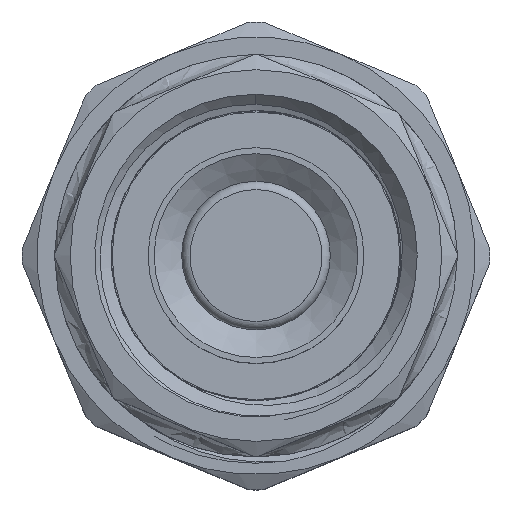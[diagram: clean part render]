
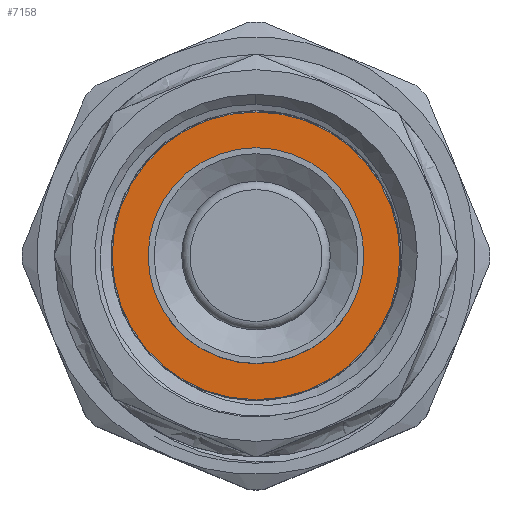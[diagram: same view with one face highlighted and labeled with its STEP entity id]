
A CAD part, top view. The second image highlights one B-rep face of the part: STEP entity #7158.
In plain terms, the highlighted planar face has unit normal (0, 0, 1).
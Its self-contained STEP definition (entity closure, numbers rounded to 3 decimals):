
#163=PLANE('',#7686);
#410=CIRCLE('',#7684,12.);
#411=CIRCLE('',#7685,12.);
#412=CIRCLE('',#7687,9.);
#413=CIRCLE('',#7688,9.);
#631=FACE_BOUND('',#1263,.T.);
#862=FACE_OUTER_BOUND('',#1262,.T.);
#1262=EDGE_LOOP('',(#5773,#5774));
#1263=EDGE_LOOP('',(#5775,#5776));
#3222=VERTEX_POINT('',#17077);
#3223=VERTEX_POINT('',#17079);
#3224=VERTEX_POINT('',#17083);
#3225=VERTEX_POINT('',#17084);
#4172=EDGE_CURVE('',#3222,#3223,#410,.T.);
#4173=EDGE_CURVE('',#3223,#3222,#411,.T.);
#4174=EDGE_CURVE('',#3224,#3225,#412,.T.);
#4175=EDGE_CURVE('',#3225,#3224,#413,.T.);
#5773=ORIENTED_EDGE('',*,*,#4173,.F.);
#5774=ORIENTED_EDGE('',*,*,#4172,.F.);
#5775=ORIENTED_EDGE('',*,*,#4174,.T.);
#5776=ORIENTED_EDGE('',*,*,#4175,.T.);
#7158=ADVANCED_FACE('',(#862,#631),#163,.T.);
#7684=AXIS2_PLACEMENT_3D('',#17080,#8979,#8980);
#7685=AXIS2_PLACEMENT_3D('',#17081,#8981,#8982);
#7686=AXIS2_PLACEMENT_3D('',#17082,#8983,#8984);
#7687=AXIS2_PLACEMENT_3D('',#17085,#8985,#8986);
#7688=AXIS2_PLACEMENT_3D('',#17086,#8987,#8988);
#8979=DIRECTION('center_axis',(0.,0.,-1.));
#8980=DIRECTION('ref_axis',(1.,0.,0.));
#8981=DIRECTION('center_axis',(0.,0.,-1.));
#8982=DIRECTION('ref_axis',(1.,0.,0.));
#8983=DIRECTION('center_axis',(0.,0.,1.));
#8984=DIRECTION('ref_axis',(1.,0.,0.));
#8985=DIRECTION('center_axis',(0.,0.,-1.));
#8986=DIRECTION('ref_axis',(1.,0.,0.));
#8987=DIRECTION('center_axis',(0.,0.,-1.));
#8988=DIRECTION('ref_axis',(1.,0.,0.));
#17077=CARTESIAN_POINT('',(0.,-12.,-0.059));
#17079=CARTESIAN_POINT('',(0.,12.,-0.059));
#17080=CARTESIAN_POINT('Origin',(0.,0.,-0.059));
#17081=CARTESIAN_POINT('Origin',(0.,0.,-0.059));
#17082=CARTESIAN_POINT('Origin',(0.,12.,-0.059));
#17083=CARTESIAN_POINT('',(0.,9.,-0.059));
#17084=CARTESIAN_POINT('',(0.,-9.,-0.059));
#17085=CARTESIAN_POINT('Origin',(0.,0.,-0.059));
#17086=CARTESIAN_POINT('Origin',(0.,0.,-0.059));
